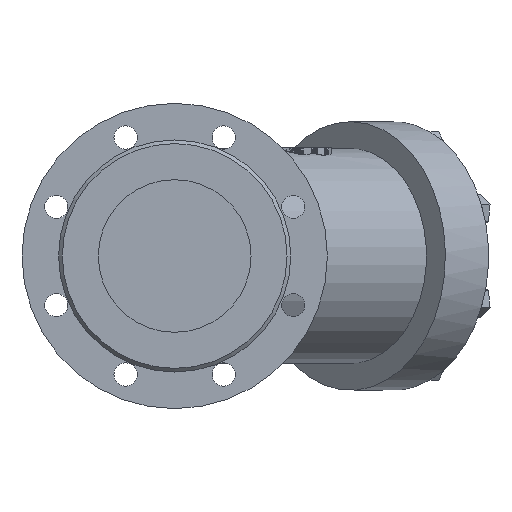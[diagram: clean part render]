
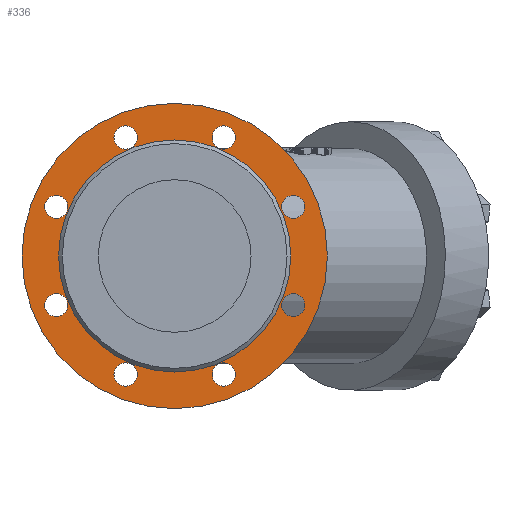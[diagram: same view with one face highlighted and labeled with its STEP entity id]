
A CAD part, left-side view. The second image highlights one B-rep face of the part: STEP entity #336.
In plain terms, the highlighted planar face has unit normal (-1, 0, 0).
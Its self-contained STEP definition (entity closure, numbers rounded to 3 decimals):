
#336=ADVANCED_FACE('',(#8927,#8929,#8931,#8933,#8935,#8937,#8939,#8941,#8943,#8945),
#8947,.T.);
#8927=FACE_BOUND('',#8928,.T.);
#8928=EDGE_LOOP('',(#16319,#16320));
#8929=FACE_BOUND('',#8930,.T.);
#8930=EDGE_LOOP('',(#16321));
#8931=FACE_BOUND('',#8932,.T.);
#8932=EDGE_LOOP('',(#16322));
#8933=FACE_BOUND('',#8934,.T.);
#8934=EDGE_LOOP('',(#16323));
#8935=FACE_BOUND('',#8936,.T.);
#8936=EDGE_LOOP('',(#16324));
#8937=FACE_BOUND('',#8938,.T.);
#8938=EDGE_LOOP('',(#16325));
#8939=FACE_BOUND('',#8940,.T.);
#8940=EDGE_LOOP('',(#16326));
#8941=FACE_BOUND('',#8942,.T.);
#8942=EDGE_LOOP('',(#16327));
#8943=FACE_BOUND('',#8944,.T.);
#8944=EDGE_LOOP('',(#16328));
#8945=FACE_BOUND('',#8946,.T.);
#8946=EDGE_LOOP('',(#16329,#16330));
#8947=PLANE('',#8948);
#8948=AXIS2_PLACEMENT_3D('',#8949,#8950,#8951);
#8949=CARTESIAN_POINT('',(7025.153,-648.454,-11.));
#8950=DIRECTION('',(-1.,0.,0.));
#8951=DIRECTION('',(0.,0.,1.));
#16319=ORIENTED_EDGE('',*,*,#21767,.F.);
#16320=ORIENTED_EDGE('',*,*,#21768,.F.);
#16321=ORIENTED_EDGE('',*,*,#21754,.T.);
#16322=ORIENTED_EDGE('',*,*,#21755,.T.);
#16323=ORIENTED_EDGE('',*,*,#21756,.T.);
#16324=ORIENTED_EDGE('',*,*,#21757,.T.);
#16325=ORIENTED_EDGE('',*,*,#21758,.T.);
#16326=ORIENTED_EDGE('',*,*,#21759,.T.);
#16327=ORIENTED_EDGE('',*,*,#21760,.T.);
#16328=ORIENTED_EDGE('',*,*,#21753,.T.);
#16329=ORIENTED_EDGE('',*,*,#21766,.T.);
#16330=ORIENTED_EDGE('',*,*,#21765,.T.);
#21753=EDGE_CURVE('',#25366,#25366,#25367,.T.);
#21754=EDGE_CURVE('',#25368,#25368,#25369,.T.);
#21755=EDGE_CURVE('',#25370,#25370,#25371,.T.);
#21756=EDGE_CURVE('',#25372,#25372,#25373,.T.);
#21757=EDGE_CURVE('',#25374,#25374,#25375,.T.);
#21758=EDGE_CURVE('',#25376,#25376,#25377,.T.);
#21759=EDGE_CURVE('',#25378,#25378,#25379,.T.);
#21760=EDGE_CURVE('',#25380,#25380,#25381,.T.);
#21765=EDGE_CURVE('',#25390,#25391,#25392,.T.);
#21766=EDGE_CURVE('',#25391,#25390,#25393,.T.);
#21767=EDGE_CURVE('',#25394,#25395,#25396,.T.);
#21768=EDGE_CURVE('',#25395,#25394,#25397,.T.);
#25366=VERTEX_POINT('',#33168);
#25367=CIRCLE('',#33169,9.5);
#25368=VERTEX_POINT('',#33173);
#25369=CIRCLE('',#33174,9.5);
#25370=VERTEX_POINT('',#33178);
#25371=CIRCLE('',#33179,9.5);
#25372=VERTEX_POINT('',#33183);
#25373=CIRCLE('',#33184,9.5);
#25374=VERTEX_POINT('',#33188);
#25375=CIRCLE('',#33189,9.5);
#25376=VERTEX_POINT('',#33193);
#25377=CIRCLE('',#33194,9.5);
#25378=VERTEX_POINT('',#33198);
#25379=CIRCLE('',#33199,9.5);
#25380=VERTEX_POINT('',#33203);
#25381=CIRCLE('',#33204,9.5);
#25390=VERTEX_POINT('',#33228);
#25391=VERTEX_POINT('',#33229);
#25392=CIRCLE('',#33230,95.);
#25393=CIRCLE('',#33234,95.);
#25394=VERTEX_POINT('',#33238);
#25395=VERTEX_POINT('',#33239);
#25396=CIRCLE('',#33240,125.);
#25397=CIRCLE('',#33244,125.);
#33168=CARTESIAN_POINT('',(7025.153,-879.961,29.182));
#33169=AXIS2_PLACEMENT_3D('',#33170,#33171,#33172);
#33170=CARTESIAN_POINT('',(7025.153,-870.461,29.182));
#33171=DIRECTION('',(1.,0.,0.));
#33172=DIRECTION('',(0.,-1.,0.));
#33173=CARTESIAN_POINT('',(7025.153,-823.135,-108.007));
#33174=AXIS2_PLACEMENT_3D('',#33175,#33176,#33177);
#33175=CARTESIAN_POINT('',(7025.153,-813.635,-108.007));
#33176=DIRECTION('',(1.,0.,0.));
#33177=DIRECTION('',(0.,-1.,0.));
#33178=CARTESIAN_POINT('',(7025.153,-685.946,29.182));
#33179=AXIS2_PLACEMENT_3D('',#33180,#33181,#33182);
#33180=CARTESIAN_POINT('',(7025.153,-676.446,29.182));
#33181=DIRECTION('',(1.,0.,0.));
#33182=DIRECTION('',(0.,-1.,0.));
#33183=CARTESIAN_POINT('',(7025.153,-742.772,-108.007));
#33184=AXIS2_PLACEMENT_3D('',#33185,#33186,#33187);
#33185=CARTESIAN_POINT('',(7025.153,-733.272,-108.007));
#33186=DIRECTION('',(1.,0.,0.));
#33187=DIRECTION('',(0.,-1.,0.));
#33188=CARTESIAN_POINT('',(7025.153,-742.772,86.007));
#33189=AXIS2_PLACEMENT_3D('',#33190,#33191,#33192);
#33190=CARTESIAN_POINT('',(7025.153,-733.272,86.007));
#33191=DIRECTION('',(1.,0.,0.));
#33192=DIRECTION('',(0.,-1.,0.));
#33193=CARTESIAN_POINT('',(7025.153,-685.946,-51.182));
#33194=AXIS2_PLACEMENT_3D('',#33195,#33196,#33197);
#33195=CARTESIAN_POINT('',(7025.153,-676.446,-51.182));
#33196=DIRECTION('',(1.,0.,0.));
#33197=DIRECTION('',(0.,-1.,0.));
#33198=CARTESIAN_POINT('',(7025.153,-879.961,-51.182));
#33199=AXIS2_PLACEMENT_3D('',#33200,#33201,#33202);
#33200=CARTESIAN_POINT('',(7025.153,-870.461,-51.182));
#33201=DIRECTION('',(1.,0.,0.));
#33202=DIRECTION('',(0.,-1.,0.));
#33203=CARTESIAN_POINT('',(7025.153,-823.135,86.007));
#33204=AXIS2_PLACEMENT_3D('',#33205,#33206,#33207);
#33205=CARTESIAN_POINT('',(7025.153,-813.635,86.007));
#33206=DIRECTION('',(1.,0.,0.));
#33207=DIRECTION('',(0.,-1.,0.));
#33228=CARTESIAN_POINT('',(7025.153,-868.454,-11.));
#33229=CARTESIAN_POINT('',(7025.153,-678.454,-11.));
#33230=AXIS2_PLACEMENT_3D('',#33231,#33232,#33233);
#33231=CARTESIAN_POINT('',(7025.153,-773.454,-11.));
#33232=DIRECTION('',(1.,0.,0.));
#33233=DIRECTION('',(0.,-1.,0.));
#33234=AXIS2_PLACEMENT_3D('',#33235,#33236,#33237);
#33235=CARTESIAN_POINT('',(7025.153,-773.454,-11.));
#33236=DIRECTION('',(1.,0.,0.));
#33237=DIRECTION('',(0.,1.,0.));
#33238=CARTESIAN_POINT('',(7025.153,-898.454,-11.));
#33239=CARTESIAN_POINT('',(7025.153,-648.454,-11.));
#33240=AXIS2_PLACEMENT_3D('',#33241,#33242,#33243);
#33241=CARTESIAN_POINT('',(7025.153,-773.454,-11.));
#33242=DIRECTION('',(1.,0.,0.));
#33243=DIRECTION('',(0.,-1.,0.));
#33244=AXIS2_PLACEMENT_3D('',#33245,#33246,#33247);
#33245=CARTESIAN_POINT('',(7025.153,-773.454,-11.));
#33246=DIRECTION('',(1.,0.,0.));
#33247=DIRECTION('',(0.,1.,0.));
